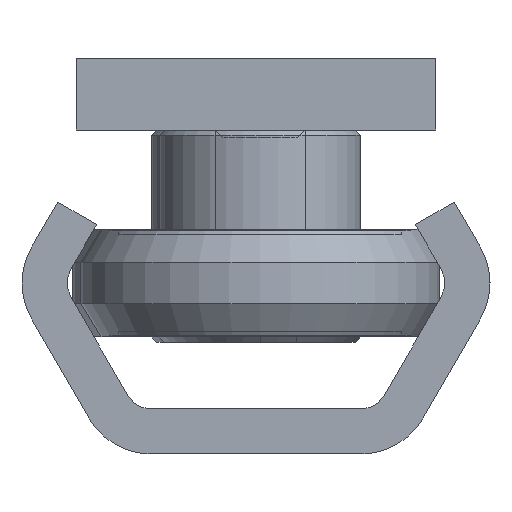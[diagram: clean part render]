
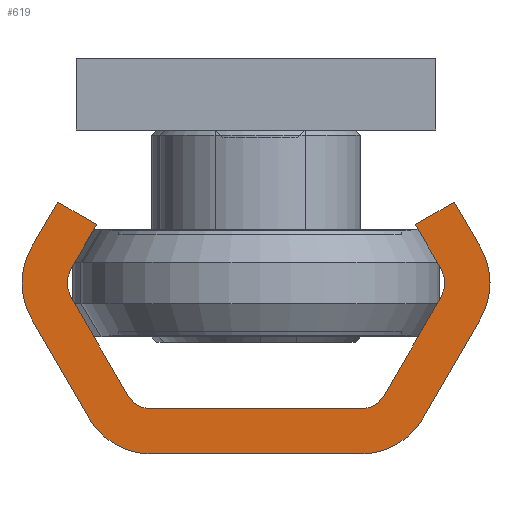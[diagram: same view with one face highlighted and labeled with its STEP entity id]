
A CAD part, left-side view. The second image highlights one B-rep face of the part: STEP entity #619.
In plain terms, the highlighted planar face has unit normal (-1, 0, 0).
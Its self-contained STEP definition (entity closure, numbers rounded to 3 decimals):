
#619 = ADVANCED_FACE( '', ( #1282 ), #1283, .F. );
#1282 = FACE_OUTER_BOUND( '', #2102, .T. );
#1283 = PLANE( '', #2103 );
#2102 = EDGE_LOOP( '', ( #3327, #3328, #3329, #3330, #3331, #3332, #3333, #3334, #3335, #3336, #3337, #3338, #3339, #3340, #3341, #3342, #3343, #3344, #3345, #3346 ) );
#2103 = AXIS2_PLACEMENT_3D( '', #3347, #3348, #3349 );
#3327 = ORIENTED_EDGE( '', *, *, #3707, .F. );
#3328 = ORIENTED_EDGE( '', *, *, #3721, .F. );
#3329 = ORIENTED_EDGE( '', *, *, #3738, .F. );
#3330 = ORIENTED_EDGE( '', *, *, #3860, .F. );
#3331 = ORIENTED_EDGE( '', *, *, #3869, .F. );
#3332 = ORIENTED_EDGE( '', *, *, #3788, .F. );
#3333 = ORIENTED_EDGE( '', *, *, #3853, .F. );
#3334 = ORIENTED_EDGE( '', *, *, #3804, .T. );
#3335 = ORIENTED_EDGE( '', *, *, #3749, .F. );
#3336 = ORIENTED_EDGE( '', *, *, #3562, .T. );
#3337 = ORIENTED_EDGE( '', *, *, #3478, .F. );
#3338 = ORIENTED_EDGE( '', *, *, #3494, .T. );
#3339 = ORIENTED_EDGE( '', *, *, #3828, .F. );
#3340 = ORIENTED_EDGE( '', *, *, #3858, .T. );
#3341 = ORIENTED_EDGE( '', *, *, #3553, .F. );
#3342 = ORIENTED_EDGE( '', *, *, #3647, .F. );
#3343 = ORIENTED_EDGE( '', *, *, #3741, .F. );
#3344 = ORIENTED_EDGE( '', *, *, #3786, .F. );
#3345 = ORIENTED_EDGE( '', *, *, #3727, .F. );
#3346 = ORIENTED_EDGE( '', *, *, #3641, .F. );
#3347 = CARTESIAN_POINT( '', ( 0., -5.825, -4. ) );
#3348 = DIRECTION( '', ( 1., 0., 0. ) );
#3349 = DIRECTION( '', ( 0., 0., -1. ) );
#3478 = EDGE_CURVE( '', #3967, #3968, #3969, .T. );
#3494 = EDGE_CURVE( '', #3967, #3993, #3994, .T. );
#3553 = EDGE_CURVE( '', #4096, #4097, #4098, .T. );
#3562 = EDGE_CURVE( '', #4110, #3968, #4111, .T. );
#3641 = EDGE_CURVE( '', #4238, #4239, #4240, .T. );
#3647 = EDGE_CURVE( '', #4246, #4096, #4247, .T. );
#3707 = EDGE_CURVE( '', #4344, #4238, #4345, .T. );
#3721 = EDGE_CURVE( '', #4364, #4344, #4365, .T. );
#3727 = EDGE_CURVE( '', #4239, #4371, #4372, .T. );
#3738 = EDGE_CURVE( '', #4387, #4364, #4388, .T. );
#3741 = EDGE_CURVE( '', #4391, #4246, #4392, .T. );
#3749 = EDGE_CURVE( '', #4110, #4401, #4402, .T. );
#3786 = EDGE_CURVE( '', #4371, #4391, #4450, .T. );
#3788 = EDGE_CURVE( '', #4452, #4453, #4454, .T. );
#3804 = EDGE_CURVE( '', #4474, #4401, #4475, .T. );
#3828 = EDGE_CURVE( '', #4503, #3993, #4504, .T. );
#3853 = EDGE_CURVE( '', #4474, #4452, #4538, .T. );
#3858 = EDGE_CURVE( '', #4503, #4097, #4544, .T. );
#3860 = EDGE_CURVE( '', #4546, #4387, #4547, .T. );
#3869 = EDGE_CURVE( '', #4453, #4546, #4558, .T. );
#3967 = VERTEX_POINT( '', #4664 );
#3968 = VERTEX_POINT( '', #4665 );
#3969 = LINE( '', #4666, #4667 );
#3993 = VERTEX_POINT( '', #4697 );
#3994 = CIRCLE( '', #4698, 1.5 );
#4096 = VERTEX_POINT( '', #4820 );
#4097 = VERTEX_POINT( '', #4821 );
#4098 = LINE( '', #4822, #4823 );
#4110 = VERTEX_POINT( '', #4837 );
#4111 = CIRCLE( '', #4838, 1.5 );
#4238 = VERTEX_POINT( '', #4999 );
#4239 = VERTEX_POINT( '', #5000 );
#4240 = CIRCLE( '', #5001, 4. );
#4246 = VERTEX_POINT( '', #5009 );
#4247 = LINE( '', #5010, #5011 );
#4344 = VERTEX_POINT( '', #5121 );
#4345 = LINE( '', #5122, #5123 );
#4364 = VERTEX_POINT( '', #5145 );
#4365 = CIRCLE( '', #5146, 4. );
#4371 = VERTEX_POINT( '', #5154 );
#4372 = LINE( '', #5155, #5156 );
#4387 = VERTEX_POINT( '', #5172 );
#4388 = LINE( '', #5173, #5174 );
#4391 = VERTEX_POINT( '', #5178 );
#4392 = LINE( '', #5179, #5180 );
#4401 = VERTEX_POINT( '', #5190 );
#4402 = LINE( '', #5191, #5192 );
#4450 = CIRCLE( '', #5248, 4. );
#4452 = VERTEX_POINT( '', #5250 );
#4453 = VERTEX_POINT( '', #5251 );
#4454 = LINE( '', #5252, #5253 );
#4474 = VERTEX_POINT( '', #5281 );
#4475 = CIRCLE( '', #5282, 1.5 );
#4503 = VERTEX_POINT( '', #5315 );
#4504 = LINE( '', #5316, #5317 );
#4538 = LINE( '', #5355, #5356 );
#4544 = CIRCLE( '', #5362, 1.5 );
#4546 = VERTEX_POINT( '', #5364 );
#4547 = CIRCLE( '', #5365, 4. );
#4558 = LINE( '', #5379, #5380 );
#4664 = CARTESIAN_POINT( '', ( 0., -5.825, -2.5 ) );
#4665 = CARTESIAN_POINT( '', ( 0., 5.825, -2.5 ) );
#4666 = CARTESIAN_POINT( '', ( 0., -5.825, -2.5 ) );
#4667 = VECTOR( '', #5506, 1000. );
#4697 = CARTESIAN_POINT( '', ( 0., -7.124, -3.25 ) );
#4698 = AXIS2_PLACEMENT_3D( '', #5525, #5526, #5527 );
#4820 = CARTESIAN_POINT( '', ( 0., -8.856, -12.75 ) );
#4821 = CARTESIAN_POINT( '', ( 0., -10.299, -10.25 ) );
#4822 = CARTESIAN_POINT( '', ( 0., -8.856, -12.75 ) );
#4823 = VECTOR( '', #5623, 1000. );
#4837 = CARTESIAN_POINT( '', ( 0., 7.124, -3.25 ) );
#4838 = AXIS2_PLACEMENT_3D( '', #5635, #5636, #5637 );
#4999 = CARTESIAN_POINT( '', ( 0., -5.825, 0. ) );
#5000 = CARTESIAN_POINT( '', ( 0., -9.289, -2. ) );
#5001 = AXIS2_PLACEMENT_3D( '', #5738, #5739, #5740 );
#5009 = CARTESIAN_POINT( '', ( 0., -11.021, -14. ) );
#5010 = CARTESIAN_POINT( '', ( 0., -11.021, -14. ) );
#5011 = VECTOR( '', #5746, 1000. );
#5121 = CARTESIAN_POINT( '', ( 0., 5.825, 0. ) );
#5122 = CARTESIAN_POINT( '', ( 0., 5.825, 0. ) );
#5123 = VECTOR( '', #5862, 1000. );
#5145 = CARTESIAN_POINT( '', ( 0., 9.289, -2. ) );
#5146 = AXIS2_PLACEMENT_3D( '', #5878, #5879, #5880 );
#5154 = CARTESIAN_POINT( '', ( 0., -12.464, -7.5 ) );
#5155 = CARTESIAN_POINT( '', ( 0., -9.289, -2. ) );
#5156 = VECTOR( '', #5886, 1000. );
#5172 = CARTESIAN_POINT( '', ( 0., 12.464, -7.5 ) );
#5173 = CARTESIAN_POINT( '', ( 0., 12.464, -7.5 ) );
#5174 = VECTOR( '', #5900, 1000. );
#5178 = CARTESIAN_POINT( '', ( 0., -12.464, -11.5 ) );
#5179 = CARTESIAN_POINT( '', ( 0., -12.464, -11.5 ) );
#5180 = VECTOR( '', #5902, 1000. );
#5190 = CARTESIAN_POINT( '', ( 0., 10.299, -8.75 ) );
#5191 = CARTESIAN_POINT( '', ( 0., 7.124, -3.25 ) );
#5192 = VECTOR( '', #5910, 1000. );
#5248 = AXIS2_PLACEMENT_3D( '', #5961, #5962, #5963 );
#5250 = CARTESIAN_POINT( '', ( 0., 8.856, -12.75 ) );
#5251 = CARTESIAN_POINT( '', ( 0., 11.021, -14. ) );
#5252 = CARTESIAN_POINT( '', ( 0., 8.856, -12.75 ) );
#5253 = VECTOR( '', #5964, 1000. );
#5281 = CARTESIAN_POINT( '', ( 0., 10.299, -10.25 ) );
#5282 = AXIS2_PLACEMENT_3D( '', #5979, #5980, #5981 );
#5315 = CARTESIAN_POINT( '', ( 0., -10.299, -8.75 ) );
#5316 = CARTESIAN_POINT( '', ( 0., -10.299, -8.75 ) );
#5317 = VECTOR( '', #6005, 1000. );
#5355 = CARTESIAN_POINT( '', ( 0., 10.299, -10.25 ) );
#5356 = VECTOR( '', #6037, 1000. );
#5362 = AXIS2_PLACEMENT_3D( '', #6041, #6042, #6043 );
#5364 = CARTESIAN_POINT( '', ( 0., 12.464, -11.5 ) );
#5365 = AXIS2_PLACEMENT_3D( '', #6044, #6045, #6046 );
#5379 = CARTESIAN_POINT( '', ( 0., 11.021, -14. ) );
#5380 = VECTOR( '', #6053, 1000. );
#5506 = DIRECTION( '', ( 0., 1., 0. ) );
#5525 = CARTESIAN_POINT( '', ( 0., -5.825, -4. ) );
#5526 = DIRECTION( '', ( 1., 0., 0. ) );
#5527 = DIRECTION( '', ( 0., 0., -1. ) );
#5623 = DIRECTION( '', ( 0., -0.5, 0.866 ) );
#5635 = CARTESIAN_POINT( '', ( 0., 5.825, -4. ) );
#5636 = DIRECTION( '', ( 1., 0., 0. ) );
#5637 = DIRECTION( '', ( 0., 0., -1. ) );
#5738 = CARTESIAN_POINT( '', ( 0., -5.825, -4. ) );
#5739 = DIRECTION( '', ( 1., 0., 0. ) );
#5740 = DIRECTION( '', ( 0., 0., -1. ) );
#5746 = DIRECTION( '', ( 0., 0.866, 0.5 ) );
#5862 = DIRECTION( '', ( 0., -1., 0. ) );
#5878 = CARTESIAN_POINT( '', ( 0., 5.825, -4. ) );
#5879 = DIRECTION( '', ( 1., 0., 0. ) );
#5880 = DIRECTION( '', ( 0., 0., -1. ) );
#5886 = DIRECTION( '', ( 0., -0.5, -0.866 ) );
#5900 = DIRECTION( '', ( 0., -0.5, 0.866 ) );
#5902 = DIRECTION( '', ( 0., 0.5, -0.866 ) );
#5910 = DIRECTION( '', ( 0., 0.5, -0.866 ) );
#5961 = CARTESIAN_POINT( '', ( 0., -9., -9.5 ) );
#5962 = DIRECTION( '', ( 1., 0., 0. ) );
#5963 = DIRECTION( '', ( 0., 0., -1. ) );
#5964 = DIRECTION( '', ( 0., 0.866, -0.5 ) );
#5979 = CARTESIAN_POINT( '', ( 0., 9., -9.5 ) );
#5980 = DIRECTION( '', ( 1., 0., 0. ) );
#5981 = DIRECTION( '', ( 0., 0., -1. ) );
#6005 = DIRECTION( '', ( 0., 0.5, 0.866 ) );
#6037 = DIRECTION( '', ( 0., -0.5, -0.866 ) );
#6041 = CARTESIAN_POINT( '', ( 0., -9., -9.5 ) );
#6042 = DIRECTION( '', ( 1., 0., 0. ) );
#6043 = DIRECTION( '', ( 0., 0., -1. ) );
#6044 = CARTESIAN_POINT( '', ( 0., 9., -9.5 ) );
#6045 = DIRECTION( '', ( 1., 0., 0. ) );
#6046 = DIRECTION( '', ( 0., 0., -1. ) );
#6053 = DIRECTION( '', ( 0., 0.5, 0.866 ) );
